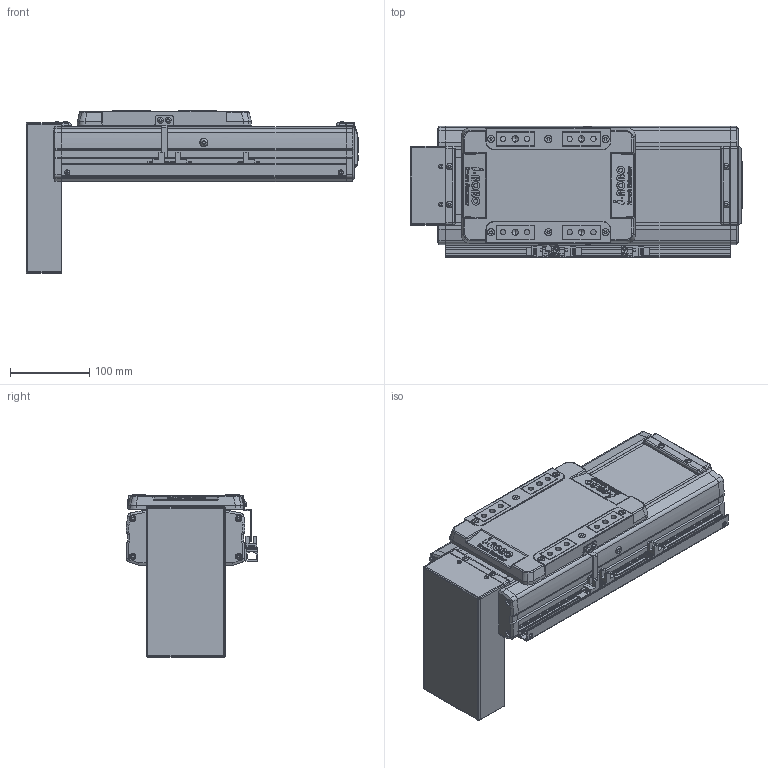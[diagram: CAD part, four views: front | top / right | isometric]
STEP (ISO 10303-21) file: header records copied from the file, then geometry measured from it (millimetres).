
FILE_DESCRIPTION(('STEP AP214'),'1');
FILE_NAME('Z:/Web/3D/SAN150/2013.04 (STP.)/SAN150ㅁㅁ-100PB+3SR.stp','2013-05-08T02:45:27',(' '),(' '),'Spatial InterOp 3D',' ',' ');
FILE_SCHEMA(('automotive_design'));
Length unit declared in the file: millimetre
Products named in the file (56): SLBL-SAN150; SLCV-SAN150; FHCS M4.0 x 8.0; BHCS M4.0 x 10.0; SFX-SAN150; RRCV-SAN150; FRBL-SAN150; Spacer; RN15; FRCV-SAN150; Screw 20; BASE-SAN150-000L ; SUS COVER; 스크루 : Round - M5.0 x 6.0; PB; 스크루 : Round - M3.0 x 6.0; M3.0 x 6.0; SRL-16x17-360L; SGD-SAN150; EE-SX674; SBK-SX674-352
Bounding box: 420 x 166 x 205.4 mm (x, y, z)
Volume: 3606196.4 mm3; surface area: 647352.8 mm2
Topology: 56 solids, 56 shells, 2492 faces, 6413 edges, 4134 vertices
Faces by surface type: plane 1362, cylinder 791, cone 230, sphere 76, bspline 21, torus 12
Entity records: 98332 total; most frequent: CARTESIAN_POINT 15225, DIRECTION 13548, ORIENTED_EDGE 12642, EDGE_CURVE 6321, AXIS2_PLACEMENT_3D 4764, VERTEX_POINT 4134, LINE 4020, VECTOR 4020
